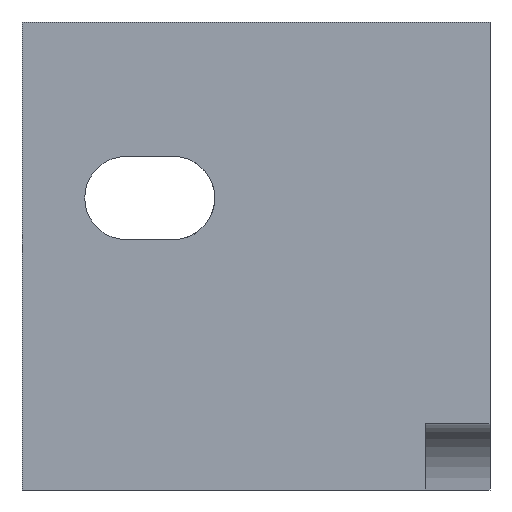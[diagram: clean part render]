
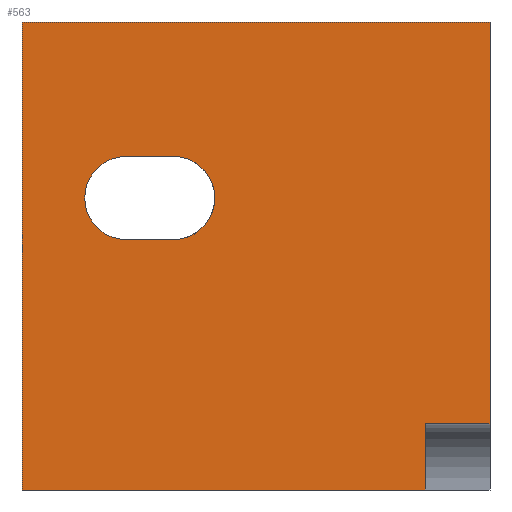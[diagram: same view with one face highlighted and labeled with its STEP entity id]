
A CAD part, front view. The second image highlights one B-rep face of the part: STEP entity #563.
In plain terms, the highlighted planar face has unit normal (0, -1, 0).
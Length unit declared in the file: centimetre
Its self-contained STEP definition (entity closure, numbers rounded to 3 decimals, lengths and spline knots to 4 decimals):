
#11 = CARTESIAN_POINT ( 'NONE',  ( 222.9011, 0., 623.91 ) ) ;
#27 = CARTESIAN_POINT ( 'NONE',  ( 861.4853, 0., 0. ) ) ;
#58 = DIRECTION ( 'NONE',  ( 0., 0., -1. ) ) ;
#62 = DIRECTION ( 'NONE',  ( 0., 0., -1. ) ) ;
#63 = VERTEX_POINT ( 'NONE', #185 ) ;
#77 = CARTESIAN_POINT ( 'NONE',  ( 323.1115, 0., 712.7515 ) ) ;
#93 = ORIENTED_EDGE ( 'NONE', *, *, #263, .F. ) ;
#118 = ORIENTED_EDGE ( 'NONE', *, *, #686, .F. ) ;
#129 = DIRECTION ( 'NONE',  ( 0., -1., 0. ) ) ;
#158 = FACE_BOUND ( 'NONE', #972, .T. ) ;
#185 = CARTESIAN_POINT ( 'NONE',  ( 222.9011, 0., 535.0684 ) ) ;
#196 = EDGE_CURVE ( 'NONE', #750, #374, #1078, .T. ) ;
#197 = AXIS2_PLACEMENT_3D ( 'NONE', #1436, #1107, #1234 ) ;
#199 = LINE ( 'NONE', #505, #823 ) ;
#200 = EDGE_CURVE ( 'NONE', #685, #750, #739, .T. ) ;
#230 = CARTESIAN_POINT ( 'NONE',  ( 1000., 0., 1000. ) ) ;
#240 = ORIENTED_EDGE ( 'NONE', *, *, #196, .T. ) ;
#241 = DIRECTION ( 'NONE',  ( 1., 0., 0. ) ) ;
#243 = CARTESIAN_POINT ( 'NONE',  ( 0., 0., 1000. ) ) ;
#263 = EDGE_CURVE ( 'NONE', #297, #629, #1348, .T. ) ;
#284 = EDGE_CURVE ( 'NONE', #63, #835, #727, .T. ) ;
#287 = ORIENTED_EDGE ( 'NONE', *, *, #1008, .F. ) ;
#297 = VERTEX_POINT ( 'NONE', #720 ) ;
#299 = CARTESIAN_POINT ( 'NONE',  ( 323.1115, 0., 535.0684 ) ) ;
#324 = ORIENTED_EDGE ( 'NONE', *, *, #284, .F. ) ;
#374 = VERTEX_POINT ( 'NONE', #27 ) ;
#391 = LINE ( 'NONE', #746, #555 ) ;
#406 = ORIENTED_EDGE ( 'NONE', *, *, #1046, .F. ) ;
#450 = AXIS2_PLACEMENT_3D ( 'NONE', #11, #129, #1409 ) ;
#453 = VECTOR ( 'NONE', #1215, 100. ) ;
#491 = CARTESIAN_POINT ( 'NONE',  ( 861.4853, 0., 141.9338 ) ) ;
#505 = CARTESIAN_POINT ( 'NONE',  ( 0., 0., 1000. ) ) ;
#511 = LINE ( 'NONE', #77, #453 ) ;
#521 = EDGE_LOOP ( 'NONE', ( #406, #543, #93, #738, #1229, #240 ) ) ;
#533 = DIRECTION ( 'NONE',  ( 0., 0., -1. ) ) ;
#543 = ORIENTED_EDGE ( 'NONE', *, *, #1232, .T. ) ;
#555 = VECTOR ( 'NONE', #62, 100. ) ;
#559 = VECTOR ( 'NONE', #241, 100. ) ;
#563 = ADVANCED_FACE ( 'NONE', ( #158, #1286 ), #1293, .F. ) ;
#565 = CARTESIAN_POINT ( 'NONE',  ( 0., 0., 1000. ) ) ;
#621 = VECTOR ( 'NONE', #1289, 100. ) ;
#622 = CARTESIAN_POINT ( 'NONE',  ( 222.9011, 0., 712.7515 ) ) ;
#629 = VERTEX_POINT ( 'NONE', #1014 ) ;
#641 = CARTESIAN_POINT ( 'NONE',  ( 0., 0., 0. ) ) ;
#644 = DIRECTION ( 'NONE',  ( 1., 0., 0. ) ) ;
#652 = VERTEX_POINT ( 'NONE', #622 ) ;
#685 = VERTEX_POINT ( 'NONE', #565 ) ;
#686 = EDGE_CURVE ( 'NONE', #652, #63, #747, .T. ) ;
#711 = DIRECTION ( 'NONE',  ( 0., 1., 0. ) ) ;
#720 = CARTESIAN_POINT ( 'NONE',  ( 1000., 0., 1000. ) ) ;
#727 = LINE ( 'NONE', #1187, #559 ) ;
#738 = ORIENTED_EDGE ( 'NONE', *, *, #934, .F. ) ;
#739 = LINE ( 'NONE', #1085, #1037 ) ;
#746 = CARTESIAN_POINT ( 'NONE',  ( 861.4853, 0., 1000. ) ) ;
#747 = CIRCLE ( 'NONE', #450, 88.8415 ) ;
#750 = VERTEX_POINT ( 'NONE', #641 ) ;
#823 = VECTOR ( 'NONE', #644, 100. ) ;
#835 = VERTEX_POINT ( 'NONE', #299 ) ;
#849 = VECTOR ( 'NONE', #1315, 100. ) ;
#856 = CARTESIAN_POINT ( 'NONE',  ( 0., 0., 0. ) ) ;
#932 = CARTESIAN_POINT ( 'NONE',  ( 861.4853, 0., 141.9338 ) ) ;
#934 = EDGE_CURVE ( 'NONE', #685, #297, #199, .T. ) ;
#964 = ORIENTED_EDGE ( 'NONE', *, *, #1025, .F. ) ;
#972 = EDGE_LOOP ( 'NONE', ( #324, #118, #287, #964 ) ) ;
#984 = VERTEX_POINT ( 'NONE', #491 ) ;
#1008 = EDGE_CURVE ( 'NONE', #1463, #652, #511, .T. ) ;
#1014 = CARTESIAN_POINT ( 'NONE',  ( 1000., 0., 141.9338 ) ) ;
#1025 = EDGE_CURVE ( 'NONE', #835, #1463, #1131, .T. ) ;
#1037 = VECTOR ( 'NONE', #58, 100. ) ;
#1046 = EDGE_CURVE ( 'NONE', #984, #374, #391, .T. ) ;
#1078 = LINE ( 'NONE', #856, #849 ) ;
#1085 = CARTESIAN_POINT ( 'NONE',  ( 0., 0., 1000. ) ) ;
#1107 = DIRECTION ( 'NONE',  ( 0., -1., 0. ) ) ;
#1131 = CIRCLE ( 'NONE', #197, 88.8415 ) ;
#1180 = DIRECTION ( 'NONE',  ( 0., 0., 1. ) ) ;
#1187 = CARTESIAN_POINT ( 'NONE',  ( 222.9011, 0., 535.0684 ) ) ;
#1215 = DIRECTION ( 'NONE',  ( -1., 0., 0. ) ) ;
#1228 = CARTESIAN_POINT ( 'NONE',  ( 323.1115, 0., 712.7515 ) ) ;
#1229 = ORIENTED_EDGE ( 'NONE', *, *, #200, .T. ) ;
#1232 = EDGE_CURVE ( 'NONE', #984, #629, #1419, .T. ) ;
#1234 = DIRECTION ( 'NONE',  ( 0., 0., -1. ) ) ;
#1286 = FACE_OUTER_BOUND ( 'NONE', #521, .T. ) ;
#1289 = DIRECTION ( 'NONE',  ( 1., 0., 0. ) ) ;
#1293 = PLANE ( 'NONE',  #1387 ) ;
#1306 = VECTOR ( 'NONE', #533, 100. ) ;
#1315 = DIRECTION ( 'NONE',  ( 1., 0., 0. ) ) ;
#1348 = LINE ( 'NONE', #230, #1306 ) ;
#1387 = AXIS2_PLACEMENT_3D ( 'NONE', #243, #711, #1180 ) ;
#1409 = DIRECTION ( 'NONE',  ( 0., 0., -1. ) ) ;
#1419 = LINE ( 'NONE', #932, #621 ) ;
#1436 = CARTESIAN_POINT ( 'NONE',  ( 323.1115, 0., 623.91 ) ) ;
#1463 = VERTEX_POINT ( 'NONE', #1228 ) ;
